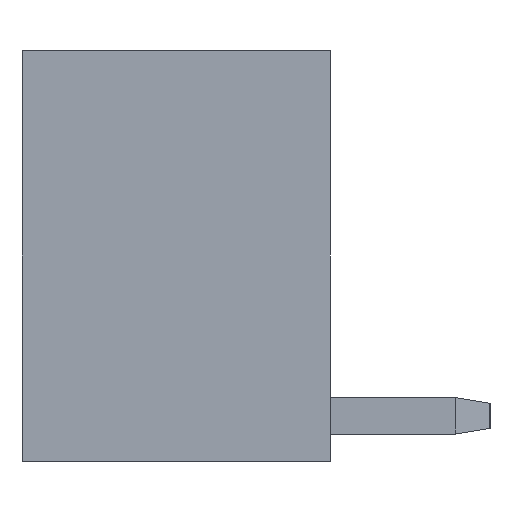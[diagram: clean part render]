
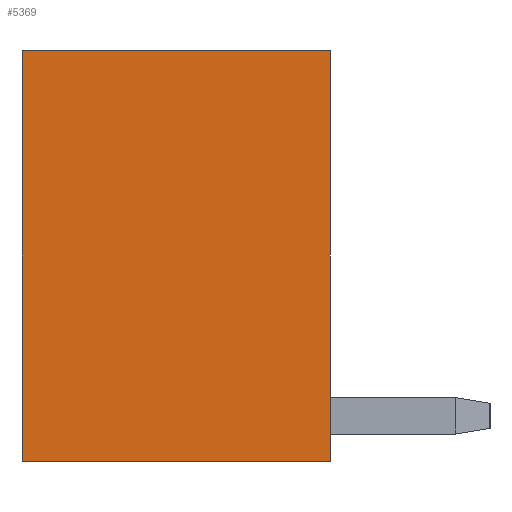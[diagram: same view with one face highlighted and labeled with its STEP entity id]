
A CAD part, left-side view. The second image highlights one B-rep face of the part: STEP entity #5369.
In plain terms, the highlighted planar face has unit normal (-1, 0, 0).
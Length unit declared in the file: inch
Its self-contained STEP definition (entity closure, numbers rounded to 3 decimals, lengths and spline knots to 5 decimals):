
#1=DIRECTION('',(0.,-1.,0.));
#2=VECTOR('',#1,0.27);
#3=CARTESIAN_POINT('',(-0.7025,0.27,0.));
#4=LINE('',#3,#2);
#530=DIRECTION('',(0.,0.,-1.));
#531=VECTOR('',#530,0.36);
#532=CARTESIAN_POINT('',(-0.7025,0.27,0.));
#533=LINE('',#532,#531);
#534=DIRECTION('',(0.,0.,-1.));
#535=VECTOR('',#534,0.36);
#536=CARTESIAN_POINT('',(-0.7025,0.,0.));
#537=LINE('',#536,#535);
#690=DIRECTION('',(0.,-1.,0.));
#691=VECTOR('',#690,0.27);
#692=CARTESIAN_POINT('',(-0.7025,0.27,-0.36));
#693=LINE('',#692,#691);
#3865=CARTESIAN_POINT('',(-0.7025,0.27,0.));
#3866=CARTESIAN_POINT('',(-0.7025,0.,0.));
#3867=VERTEX_POINT('',#3865);
#3868=VERTEX_POINT('',#3866);
#3873=CARTESIAN_POINT('',(-0.7025,0.27,-0.36));
#3874=CARTESIAN_POINT('',(-0.7025,0.,-0.36));
#3875=VERTEX_POINT('',#3873);
#3876=VERTEX_POINT('',#3874);
#5355=CARTESIAN_POINT('',(-0.7025,0.27,0.));
#5356=DIRECTION('',(-1.,0.,0.));
#5357=DIRECTION('',(0.,-1.,0.));
#5358=AXIS2_PLACEMENT_3D('',#5355,#5356,#5357);
#5359=PLANE('',#5358);
#5360=ORIENTED_EDGE('',*,*,#5074,.T.);
#5362=ORIENTED_EDGE('',*,*,#5361,.T.);
#5364=ORIENTED_EDGE('',*,*,#5363,.F.);
#5366=ORIENTED_EDGE('',*,*,#5365,.F.);
#5367=EDGE_LOOP('',(#5360,#5362,#5364,#5366));
#5368=FACE_OUTER_BOUND('',#5367,.F.);
#5369=ADVANCED_FACE('',(#5368),#5359,.T.);
#5074=EDGE_CURVE('',#3867,#3868,#4,.T.);
#5361=EDGE_CURVE('',#3868,#3876,#537,.T.);
#5363=EDGE_CURVE('',#3875,#3876,#693,.T.);
#5365=EDGE_CURVE('',#3867,#3875,#533,.T.);
